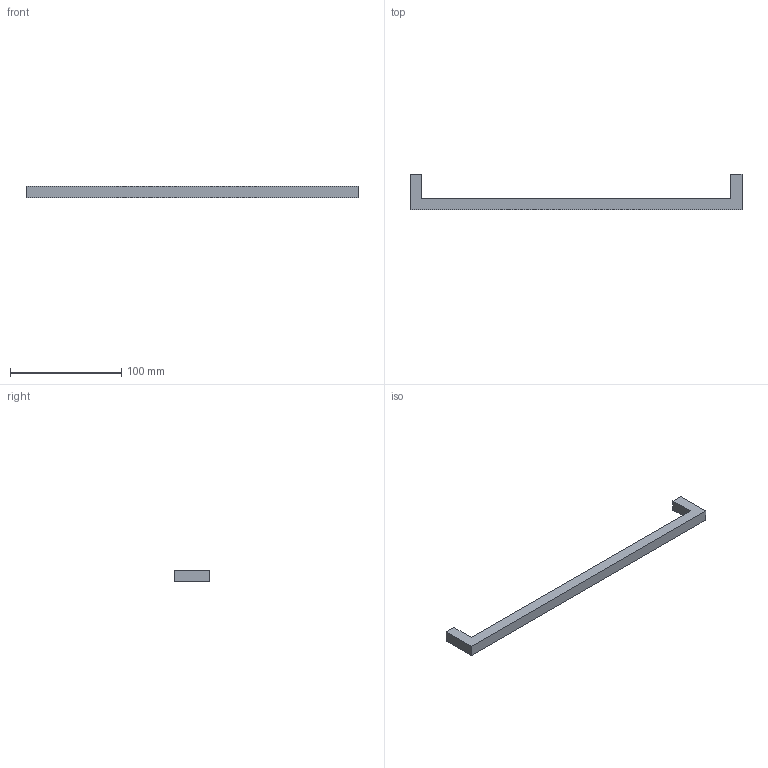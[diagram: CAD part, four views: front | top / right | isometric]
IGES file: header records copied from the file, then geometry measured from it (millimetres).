
Start section: Data from Parasolid IGES Translator 15.0.47, Copyright(c) 2006 Siemens P LM Software. All Rights Reserved.
Global section: file name: 1160021.igs; native system:  By UGS Corp.; preprocessor: XPlus GENERIC/IGES 3.0; author: Noname; organization: Noname; date: 20140122.181811; units: millimetre
Bounding box: 298 x 32 x 10 mm (x, y, z)
Surface area: 14131.3 mm2 (no closed solid volume)
Topology: 0 solids, 0 shells, 14 faces, 60 edges, 58 vertices
Faces by surface type: extrusion 12, revolution 2
